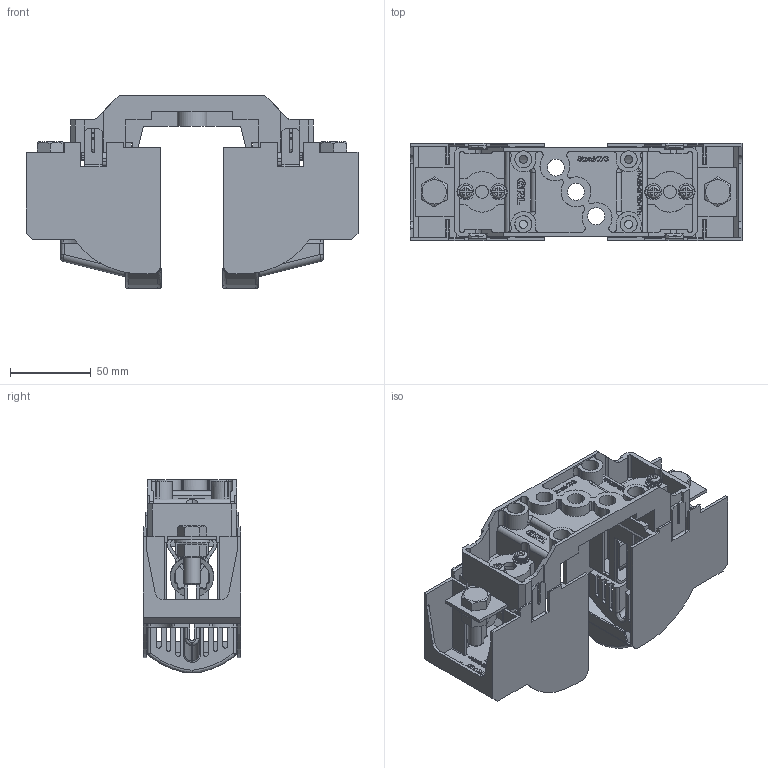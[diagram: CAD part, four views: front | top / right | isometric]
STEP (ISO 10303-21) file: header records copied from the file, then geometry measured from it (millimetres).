
FILE_DESCRIPTION (( 'STEP AP214' ), '1' );
FILE_NAME ('DN56311.STEP', '2022-10-31T05:14:55', ( '微软用户' ), ( '微软中国' ), 'SwSTEP 2.0', 'SolidWorks 2019', '' );
FILE_SCHEMA (( 'AUTOMOTIVE_DESIGN' ));
Length unit declared in the file: millimetre
Products named in the file (19): 250ACHUTOU1_ASM; M5-35; M5-35ZUHE_ASM; M10_LUOMU; M5-20; M5-20ZUHE_ASM; DIZUO_1; PINGDIAN5_1; 250HUZHAO; 250_NEW_KAQUAN; GAIZHAO_1; 250ACHUTOU; TANDIAN5_1; DN56311; DNTRS_200_10_WANDIAN; M10X30_LUOSHUAN
Assembly tree (33 placements, depth 3):
  DN56311
    DIZUO_1
    250ACHUTOU1_ASM
      250ACHUTOU
      250_NEW_KAQUAN
    250ACHUTOU1_ASM
      250ACHUTOU
      250_NEW_KAQUAN
    M5-35ZUHE_ASM
      M5-35
      PINGDIAN5_1
      TANDIAN5_1
    M5-35ZUHE_ASM
      M5-35
      PINGDIAN5_1
      TANDIAN5_1
    GAIZHAO_1  x2
    M10X30_LUOSHUAN  x2
    DNTRS_200_10_WANDIAN  x2
    M10_LUOMU  x2
    M5-20ZUHE_ASM
      M5-20
      PINGDIAN5_1
      TANDIAN5_1
    M5-20ZUHE_ASM
      M5-20
      PINGDIAN5_1
      TANDIAN5_1
    250HUZHAO  x2
Bounding box: 205 x 60 x 119 mm (x, y, z)
Volume: 175627.3 mm3; surface area: 183368 mm2
Topology: 25 solids, 27 shells, 4796 faces, 13637 edges, 9003 vertices
Faces by surface type: plane 4159, cylinder 495, bspline 92, cone 50
Entity records: 101422 total; most frequent: CARTESIAN_POINT 26552, ORIENTED_EDGE 16572, DIRECTION 13468, EDGE_CURVE 8286, VECTOR 6946, LINE 6946, VERTEX_POINT 5487, AXIS2_PLACEMENT_3D 3261
